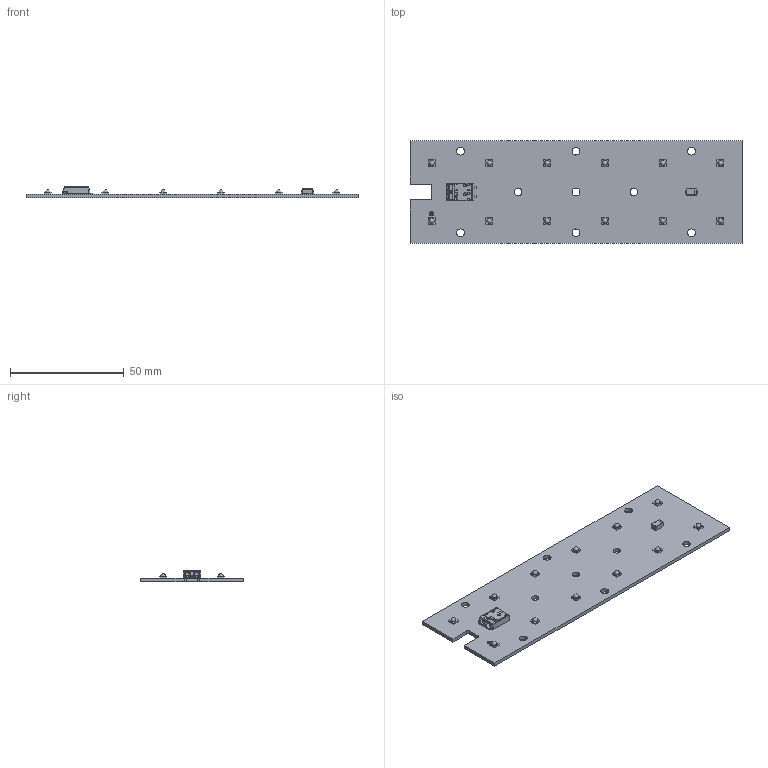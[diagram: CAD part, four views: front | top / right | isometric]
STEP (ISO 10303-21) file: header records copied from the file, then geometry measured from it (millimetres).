
FILE_DESCRIPTION((''),'2;1');
FILE_NAME('16207846_RLE_2X6_EXC2_OTD','2018-06-21T16:19:15',('bernhard.fink'),(''),'CREO PARAMETRIC BY PTC INC, 2017380','CREO PARAMETRIC BY PTC INC, 2017380','');
FILE_SCHEMA(('AUTOMOTIVE_DESIGN { 1 0 10303 214 1 1 1 1 }'));
Length unit declared in the file: millimetre
Products named in the file (1): 16207846_RLE_2X6_EXC2_OTD
Bounding box: 146 x 45 x 5.1 mm (x, y, z)
Volume: 10983.2 mm3; surface area: 14258.8 mm2
Topology: 1 solids, 2 shells, 602 faces, 1558 edges, 964 vertices
Faces by surface type: plane 258, cylinder 171, bspline 105, cone 30, sphere 24, torus 14
Entity records: 30860 total; most frequent: CARTESIAN_POINT 7886, ORIENTED_EDGE 3046, DIRECTION 2491, PRESENTATION_STYLE_ASSIGNMENT 2125, STYLED_ITEM 1525, CURVE_STYLE 1523, EDGE_CURVE 1523, VERTEX_POINT 963
